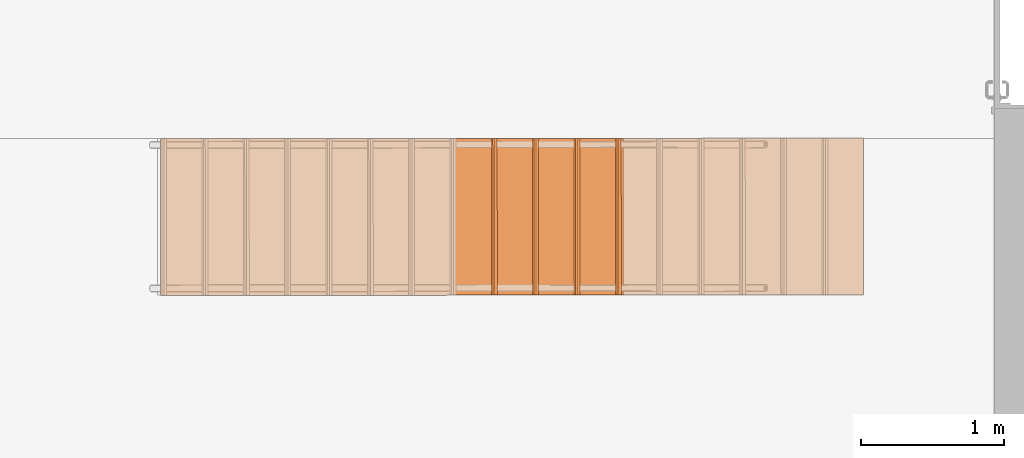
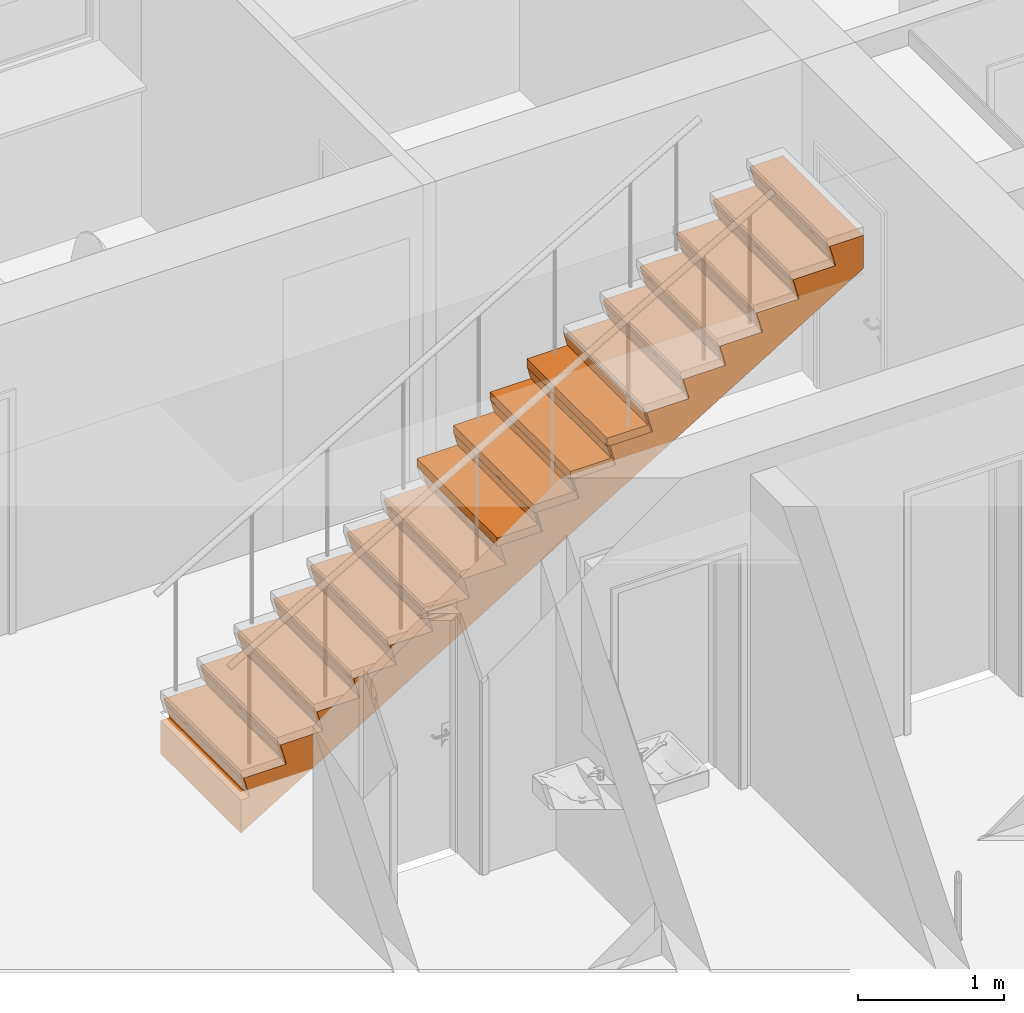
# One storey, part 126 of 127: 9 proxies, 1 element without a shape of its own.
"""IFC2X3 building model written with IfcOpenShell, lengths in millimetres."""

from ifc_helpers import new_model, entity, si_unit, converted_unit, derived_unit, money_unit, direction, frame, origin_with_axes, place, context, subcontext, project, spatial, faceted_brep, material, type_object, element, aggregate, save


model = new_model("IFC2X3")

# Units and contexts
model_context = context("Model", 3, precision=1e-05, world=origin_with_axes(), true_north=direction((0.0, 1.0)))
body_context = subcontext(model_context, "Body", "Model", "MODEL_VIEW")
ifc_project = project(units=[si_unit("LENGTHUNIT", "METRE", prefix="MILLI"), si_unit("AREAUNIT", "SQUARE_METRE"), si_unit("VOLUMEUNIT", "CUBIC_METRE"), converted_unit("PLANEANGLEUNIT", "DEGREE", entity("IfcPlaneAngleMeasure", 0.0174532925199), si_unit("PLANEANGLEUNIT", "RADIAN"), dimensions=[0, 0, 0, 0, 0, 0, 0]), si_unit("SOLIDANGLEUNIT", "STERADIAN"), money_unit("EUR"), converted_unit("TIMEUNIT", "Year", entity("IfcTimeMeasure", 31556926.0), si_unit("TIMEUNIT", "SECOND"), dimensions=[0, 0, 1, 0, 0, 0, 0]), si_unit("MASSUNIT", "GRAM", prefix="KILO"), si_unit("THERMODYNAMICTEMPERATUREUNIT", "DEGREE_CELSIUS"), si_unit("LUMINOUSINTENSITYUNIT", "LUMEN"), si_unit("ENERGYUNIT", "JOULE", prefix="MEGA"), derived_unit("THERMALCONDUCTANCEUNIT", [(si_unit("POWERUNIT", "WATT"), 1), (si_unit("LENGTHUNIT", "METRE"), -1), (si_unit("THERMODYNAMICTEMPERATUREUNIT", "KELVIN"), -1)]), derived_unit("SPECIFICHEATCAPACITYUNIT", [(si_unit("ENERGYUNIT", "JOULE"), 1), (si_unit("MASSUNIT", "GRAM", prefix="KILO"), -1), (si_unit("THERMODYNAMICTEMPERATUREUNIT", "KELVIN"), -1)]), derived_unit("MASSDENSITYUNIT", [(si_unit("MASSUNIT", "GRAM", prefix="KILO"), 1), (si_unit("VOLUMEUNIT", "CUBIC_METRE"), -1)])], contexts=[model_context])

# Site, building, storey
site_placement = place(None, origin_with_axes())
site = spatial("IfcSite", under=ifc_project, at=site_placement, Name="Site", CompositionType="ELEMENT")
building_placement = place(site_placement, origin_with_axes())
building = spatial("IfcBuilding", under=site, at=building_placement, Name="Building", CompositionType="ELEMENT")
storey_placement = place(building_placement, origin_with_axes())
storey = spatial("IfcBuildingStorey", under=building, at=storey_placement, Name="1 KORRUS", CompositionType="ELEMENT", Elevation=0.0)

# Stair, proxies
stair_placement = place(storey_placement, frame((9889.99181075, 65961.1849179, 0.0), z_axis=(0.0, 0.0, 1.0), x_axis=(1.0, 0.0, 0.0)))
stair = element("IfcStair", 1, at=stair_placement, inside=storey, Name="STAIR - 001", ShapeType="NOTDEFINED")
ifc_material = material(Name="Betoon - Ol.Olev konstruktsioon")
building_element_proxy_type_1 = type_object("IfcBuildingElementProxyType", Name="BETOON TREPP", PredefinedType="NOTDEFINED")
proxy_1_placement = place(stair_placement, origin_with_axes())
proxy_1 = element("IfcBuildingElementProxy", 2, at=proxy_1_placement, type_object=building_element_proxy_type_1, material=ifc_material, Name="Betoon - Ol.Olev konstruktsioon;  Objekti nimi:", context=body_context, shape_type="Brep", body=[
    faceted_brep([(4834.20881468, -1096.14609167, 2594.05305173), (4882.54213265, -1096.10755605, 2623.46481644), (4930.87545062, -1096.06902043, 2652.87658115), (4930.87545062, -1096.0690172, 2930.0), (4664.26055089, -1096.28158631, 2930.0), (4711.54568747, -1096.24388639, 2753.52941176), (4374.26064307, -1096.51280024, 2753.52941176), (4421.54577964, -1096.47510076, 2577.05882353), (4084.26073524, -1096.74401396, 2577.05882353), (4131.54587181, -1096.70631448, 2400.58823529), (3794.26082741, -1096.97522767, 2400.58823529), (3841.54596399, -1096.9375282, 2224.11764706), (3504.26091958, -1097.20644139, 2224.11764706), (3551.54605616, -1097.16874191, 2047.64705882), (3214.26101175, -1097.43765511, 2047.64705882), (3261.54614833, -1097.39995563, 1871.17647059), (2924.26110393, -1097.66886882, 1871.17647059), (2971.5462405, -1097.63116935, 1694.70588235), (2634.2611961, -1097.90008254, 1694.70588235), (2681.54633268, -1097.86238306, 1518.23529412), (2344.26128827, -1098.13129626, 1518.23529412), (2391.54642485, -1098.09359678, 1341.76470588), (2054.26138044, -1098.36250997, 1341.76470588), (2101.54651702, -1098.3248105, 1165.29411765), (1764.26147261, -1098.59372369, 1165.29411765), (1811.54660919, -1098.55602421, 988.823529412), (1474.26156479, -1098.82493741, 988.823529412), (1521.54670136, -1098.78723793, 812.352941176), (1184.26165696, -1099.05615112, 812.352941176), (1231.54679354, -1099.01845165, 635.882352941), (894.26174913, -1099.28736484, 635.882352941), (941.546885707, -1099.24966537, 459.411764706), (604.261841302, -1099.51857856, 459.411764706), (651.546977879, -1099.48087908, 282.941176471), (314.261933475, -1099.74979227, 282.941176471), (361.547070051, -1099.7120928, 106.470588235), (24.2620256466, -1099.98100599, 106.470588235), (71.5471622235, -1099.94330652, -70.0), (0.877017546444, -1099.99965038, -70.0), (0.877017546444, -1099.99965038, -347.123418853), (49.2103355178, -1099.96111476, -317.711654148), (97.5436534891, -1099.92257914, -288.299889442), (145.87697146, -1099.88404352, -258.888124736), (194.210289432, -1099.8455079, -229.47636003), (242.543607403, -1099.80697228, -200.064595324), (290.876925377, -1099.7684399, -170.652830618), (339.210243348, -1099.72990428, -141.241065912), (387.54356132, -1099.69136866, -111.829301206), (435.876879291, -1099.65283304, -82.4175365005), (484.210197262, -1099.61429742, -53.0057717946), (532.543515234, -1099.5757618, -23.5940070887), (580.876833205, -1099.53722618, 5.81775761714), (629.210151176, -1099.49869056, 35.229522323), (677.543469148, -1099.46015495, 64.6412870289), (725.876787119, -1099.42161933, 94.0530517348), (774.21010509, -1099.38308371, 123.464816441), (822.543423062, -1099.34454809, 152.876581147), (870.876741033, -1099.30601247, 182.288345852), (919.210059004, -1099.26747685, 211.700110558), (967.543376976, -1099.22894123, 241.111875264), (1015.87669495, -1099.19040561, 270.52363997), (1064.21001292, -1099.15186999, 299.935404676), (1112.54333089, -1099.11333437, 329.347169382), (1160.87664886, -1099.07479875, 358.758934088), (1209.20996683, -1099.03626313, 388.170698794), (1257.5432848, -1098.99772751, 417.582463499), (1305.87660277, -1098.95919189, 446.994228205), (1354.20992075, -1098.92065627, 476.405992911), (1402.54323872, -1098.88212065, 505.817757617), (1450.87655669, -1098.84358503, 535.229522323), (1499.20987466, -1098.80504941, 564.641287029), (1547.54319263, -1098.76651379, 594.053051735), (1595.8765106, -1098.72797818, 623.464816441), (1644.20982857, -1098.68944256, 652.876581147), (1692.54314655, -1098.65090694, 682.288345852), (1740.87646452, -1098.61237132, 711.700110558), (1789.20978249, -1098.5738357, 741.111875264), (1837.54310046, -1098.53530008, 770.52363997), (1885.87641843, -1098.49676446, 799.935404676), (1934.2097364, -1098.45822884, 829.347169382), (1982.54305437, -1098.41969322, 858.758934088), (2030.87637234, -1098.3811576, 888.170698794), (2079.20969032, -1098.34262198, 917.582463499), (2127.54300829, -1098.30408636, 946.994228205), (2175.87632626, -1098.26555074, 976.405992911), (2224.20964423, -1098.22701512, 1005.81775762), (2272.5429622, -1098.1884795, 1035.22952232), (2320.87628017, -1098.14994388, 1064.64128703), (2369.20959814, -1098.11140826, 1094.05305173), (2417.54291612, -1098.07287264, 1123.46481644), (2465.87623409, -1098.03433703, 1152.87658115), (2514.20955206, -1097.99580141, 1182.28834585), (2562.54287003, -1097.95726579, 1211.70011056), (2610.876188, -1097.91873017, 1241.11187526), (2659.20950597, -1097.88019455, 1270.52363997), (2707.54282394, -1097.84165893, 1299.93540468), (2755.87614191, -1097.80312331, 1329.34716938), (2804.20945989, -1097.76458769, 1358.75893409), (2852.54277786, -1097.72605207, 1388.17069879), (2900.87609583, -1097.68751645, 1417.5824635), (2949.2094138, -1097.64898083, 1446.99422821), (2997.54273177, -1097.61044521, 1476.40599291), (3045.87604974, -1097.57190959, 1505.81775762), (3094.20936771, -1097.53337397, 1535.22952232), (3142.54268569, -1097.49483835, 1564.64128703), (3190.87600366, -1097.45630273, 1594.05305173), (3239.20932163, -1097.41776711, 1623.46481644), (3287.5426396, -1097.37923149, 1652.87658115), (3335.87595757, -1097.34069587, 1682.28834585), (3384.20927554, -1097.30216026, 1711.70011056), (3432.54259351, -1097.26362464, 1741.11187526), (3480.87591148, -1097.22508902, 1770.52363997), (3529.20922946, -1097.1865534, 1799.93540468), (3577.54254743, -1097.14801778, 1829.34716938), (3625.8758654, -1097.10948216, 1858.75893409), (3674.20918337, -1097.07094654, 1888.17069879), (3722.54250134, -1097.03241092, 1917.5824635), (3770.87581931, -1096.9938753, 1946.99422821), (3819.20913728, -1096.95533968, 1976.40599291), (3867.54245525, -1096.91680406, 2005.81775762), (3915.87577323, -1096.87826844, 2035.22952232), (3964.2090912, -1096.83973282, 2064.64128703), (4012.54240917, -1096.8011972, 2094.05305173), (4060.87572714, -1096.76266158, 2123.46481644), (4109.20904511, -1096.72412596, 2152.87658115), (4157.54236308, -1096.68559034, 2182.28834585), (4205.87568105, -1096.64705472, 2211.70011056), (4254.20899903, -1096.6085191, 2241.11187526), (4302.542317, -1096.56998349, 2270.52363997), (4350.87563497, -1096.53144787, 2299.93540468), (4399.20895294, -1096.49291225, 2329.34716938), (4447.54227091, -1096.45437663, 2358.75893409), (4495.87558888, -1096.41584101, 2388.17069879), (4544.20890685, -1096.37730539, 2417.5824635), (4592.54222482, -1096.33876977, 2446.99422821), (4640.8755428, -1096.30023415, 2476.40599291), (4689.20886077, -1096.26169853, 2505.81775762), (4737.54217874, -1096.22316291, 2535.22952232), (4785.87549671, -1096.18462729, 2564.64128703), (4833.77030591, -546.146264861, 2594.05305173), (4929.99843308, 3.93063318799, 2652.87658115), (4881.6651151, 3.89209756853, 2623.46481644), (4929.99843308, 3.93063318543, 2930.0), (4663.38353335, 3.71806407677, 2930.0), (4710.66866992, 3.75576399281, 2753.52941176), (4373.38362552, 3.48685036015, 2753.52941176), (4420.6687621, 3.52455027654, 2577.05882353), (4083.38371769, 3.25563678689, 2577.05882353), (4130.66885427, 3.2933369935, 2400.58823529), (3793.38380986, 3.02442321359, 2400.58823529), (3840.66894644, 3.06212371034, 2224.11764706), (3503.38390203, 2.79320964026, 2224.11764706), (3550.66903861, 2.83091042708, 2047.64705882), (3213.38399421, 2.56199518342, 2047.64705882), (3260.66913078, 2.59969447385, 1871.17647059), (2923.38408638, 2.33078161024, 1871.17647059), (2970.66922296, 2.36848119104, 1694.70588235), (2633.38417855, 2.09956803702, 1694.70588235), (2680.66931513, 2.13726790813, 1518.23529412), (2343.38427072, 1.86835446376, 1518.23529412), (2390.6694073, 1.9060546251, 1341.76470588), (2053.3843629, 1.63714089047, 1341.76470588), (2100.66949947, 1.67484134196, 1165.29411765), (1763.38445507, 1.40592731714, 1165.29411765), (1810.66959164, 1.44362805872, 988.823529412), (1473.38454724, 1.17471286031, 988.823529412), (1520.66968382, 1.2124121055, 812.352941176), (1183.38463941, 0.943499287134, 812.352941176), (1230.66977599, 0.981198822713, 635.882352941), (893.384731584, 0.71228571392, 635.882352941), (940.669868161, 0.749985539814, 459.411764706), (603.384823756, 0.48107214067, 459.411764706), (650.669960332, 0.518772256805, 282.941176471), (313.384915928, 0.249858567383, 282.941176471), (360.670052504, 0.287558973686, 106.470588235), (23.3850080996, 0.0186449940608, 106.470588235), (70.6701446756, 0.0563456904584, -70.0), (0.0, 0.0, -70.0), (0.0, 0.0, -347.123418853), (97.1051447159, -549.922753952, -288.299889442), (48.3333179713, 0.038535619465, -317.711654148), (193.771780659, -549.845682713, -229.47636003), (290.438416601, -549.768611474, -170.652830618), (387.105052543, -549.691538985, -111.829301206), (483.771688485, -549.614467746, -53.0057717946), (580.438324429, -549.537397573, 5.81775761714), (677.104960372, -549.460326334, 64.6412870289), (773.771596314, -549.383255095, 123.464816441), (870.438232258, -549.306184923, 182.288345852), (967.1048682, -549.229113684, 241.111875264), (1063.77150414, -549.152042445, 299.935404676), (1160.43814009, -549.074971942, 358.758934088), (1257.10477603, -548.997900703, 417.582463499), (1353.77141197, -548.920829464, 476.405992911), (1450.43804791, -548.843758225, 535.229522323), (1547.10468386, -548.766686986, 594.053051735), (1643.7713198, -548.689615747, 652.876581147), (1740.43795574, -548.612544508, 711.700110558), (1837.10459168, -548.535473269, 770.52363997), (1933.77122763, -548.45840203, 829.347169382), (2030.43786357, -548.381330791, 888.170698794), (2127.10449951, -548.304256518, 946.994228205), (2223.77113545, -548.227185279, 1005.81775762), (2320.4377714, -548.150115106, 1064.64128703), (2417.10440734, -548.073043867, 1123.46481644), (2513.77104328, -547.995972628, 1182.28834585), (2610.43767923, -547.918902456, 1241.11187526), (2707.10431517, -547.841831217, 1299.93540468), (2803.77095111, -547.764759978, 1358.75893409), (2900.43758705, -547.687689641, 1417.5824635), (2997.104223, -547.610618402, 1476.40599291), (3093.77085894, -547.533547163, 1535.22952232), (3190.43749488, -547.456475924, 1594.05305173), (3287.10413082, -547.379404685, 1652.87658115), (3383.77076677, -547.302333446, 1711.70011056), (3480.43740271, -547.225262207, 1770.52363997), (3577.10403865, -547.148190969, 1829.34716938), (3673.7706746, -547.07111973, 1888.17069879), (3770.43731054, -546.994048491, 1946.99422821), (3867.10394648, -546.916974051, 2005.81775762), (3963.77058242, -546.839902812, 2064.64128703), (4060.43721836, -546.762832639, 2123.46481644), (4157.10385431, -546.6857614, 2182.28834585), (4253.77049025, -546.608690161, 2241.11187526), (4350.43712619, -546.531619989, 2299.93540468), (4447.10376214, -546.45454875, 2358.75893409), (4543.77039808, -546.377477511, 2417.5824635), (4640.43703402, -546.300407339, 2476.40599291), (4737.10366996, -546.2233361, 2535.22952232), (4833.33179713, 3.85356194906, 2594.05305173), (96.6666359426, 0.07707123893, -288.299889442), (4784.99847916, 3.8150263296, 2564.64128703), (4736.66516119, 3.77649071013, 2535.22952232), (4688.33184322, 3.73795509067, 2505.81775762), (4639.99852525, 3.6994194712, 2476.40599291), (4591.66520727, 3.66088598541, 2446.99422821), (4543.3318893, 3.62235036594, 2417.5824635), (4494.99857133, 3.58381474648, 2388.17069879), (4446.66525336, 3.54527912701, 2358.75893409), (4398.33193539, 3.50674350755, 2329.34716938), (4349.99861742, 3.46820788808, 2299.93540468), (4301.66529944, 3.42967440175, 2270.52363997), (4253.33198147, 3.39113878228, 2241.11187526), (4204.9986635, 3.35260316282, 2211.70011056), (4156.66534553, 3.31406754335, 2182.28834585), (4108.33202756, 3.27553192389, 2152.87658115), (4059.99870959, 3.23699630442, 2123.46481644), (4011.66539161, 3.19846281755, 2094.05305173), (3963.33207364, 3.15992719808, 2064.64128703), (3914.99875567, 3.12139157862, 2035.22952232), (3866.6654377, 3.08285595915, 2005.81775762), (3818.33211973, 3.04432033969, 1976.40599291), (3769.99880176, 3.00577831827, 1946.99422821), (3721.66548379, 2.9672426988, 1917.5824635), (3673.33216582, 2.92870707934, 1888.17069879), (3624.99884785, 2.89017145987, 1858.75893409), (3576.66552988, 2.85163584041, 1829.34716938), (3528.33221191, 2.81310022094, 1799.93540468), (3479.99889394, 2.77456460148, 1770.52363997), (3431.66557596, 2.73602898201, 1741.11187526), (3383.33225799, 2.69749336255, 1711.70011056), (3334.99894002, 2.65895774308, 1682.28834585), (3286.66562205, 2.62042212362, 1652.87658115), (3238.33230408, 2.58188650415, 1623.46481644), (3189.99898611, 2.54335088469, 1594.05305173), (3141.66566814, 2.50481526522, 1564.64128703), (3093.33235016, 2.46627964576, 1535.22952232), (3044.99903219, 2.42774402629, 1505.81775762), (2996.66571422, 2.38920840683, 1476.40599291), (2948.33239625, 2.35067278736, 1446.99422821), (2899.99907828, 2.3121371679, 1417.5824635), (2851.66576031, 2.27360335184, 1388.17069879), (2803.33244234, 2.23506773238, 1358.75893409), (2754.99912436, 2.19653211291, 1329.34716938), (2706.66580639, 2.15799649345, 1299.93540468), (2658.33248842, 2.11946087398, 1270.52363997), (2609.99917045, 2.08092525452, 1241.11187526), (2561.66585248, 2.04239176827, 1211.70011056), (2513.33253451, 2.0038561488, 1182.28834585), (2464.99921653, 1.96532052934, 1152.87658115), (2416.66589856, 1.92678490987, 1123.46481644), (2368.33258059, 1.88824929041, 1094.05305173), (2319.99926262, 1.84971367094, 1064.64128703), (2271.66594465, 1.81118018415, 1035.22952232), (2223.33262668, 1.77264456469, 1005.81775762), (2174.9993087, 1.73410894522, 976.405992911), (2126.66599073, 1.69557332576, 946.994228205), (2078.33267276, 1.65703770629, 917.582463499), (2029.9993548, 1.61849601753, 888.170698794), (1981.66603682, 1.57996039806, 858.758934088), (1933.33271885, 1.5414247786, 829.347169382), (1884.99940088, 1.50288915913, 799.935404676), (1836.66608291, 1.46435353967, 770.52363997), (1788.33276494, 1.4258179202, 741.111875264), (1739.99944697, 1.38728230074, 711.700110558), (1691.666129, 1.34874668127, 682.288345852), (1643.33281103, 1.31021106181, 652.876581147), (1594.99949305, 1.27167544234, 623.464816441), (1546.66617508, 1.23313982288, 594.053051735), (1498.33285711, 1.19460420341, 564.641287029), (1449.99953914, 1.15606858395, 535.229522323), (1401.66622117, 1.11753296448, 505.817757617), (1353.3329032, 1.07899734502, 476.405992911), (1304.99958523, 1.04046172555, 446.994228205), (1256.66626725, 1.00192610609, 417.582463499), (1208.33294928, 0.963390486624, 388.170698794), (1159.99963131, 0.924854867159, 358.758934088), (1111.66631334, 0.886320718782, 329.347169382), (1063.33299537, 0.847785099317, 299.935404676), (1014.9996774, 0.809249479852, 270.52363997), (966.666359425, 0.770713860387, 241.111875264), (918.333041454, 0.732178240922, 211.700110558), (869.999723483, 0.693642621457, 182.288345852), (821.66640551, 0.655109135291, 152.876581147), (773.333087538, 0.616573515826, 123.464816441), (724.999769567, 0.578037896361, 94.0530517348), (676.666451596, 0.539502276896, 64.6412870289), (628.333133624, 0.500966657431, 35.229522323), (579.999815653, 0.462431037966, 5.81775761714), (531.66649768, 0.423897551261, -23.5940070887), (483.333179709, 0.385361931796, -53.0057717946), (434.999861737, 0.346826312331, -82.4175365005), (386.666543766, 0.308290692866, -111.829301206), (338.333225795, 0.269755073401, -141.241065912), (289.999907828, 0.23121371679, -170.652830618), (241.666589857, 0.192678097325, -200.064595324), (193.333271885, 0.15414247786, -229.47636003), (144.999953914, 0.115606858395, -258.888124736)], [[[0, 1, 2, 3, 4, 5, 6, 7, 8, 9, 10, 11, 12, 13, 14, 15, 16, 17, 18, 19, 20, 21, 22, 23, 24, 25, 26, 27, 28, 29, 30, 31, 32, 33, 34, 35, 36, 37, 38, 39, 40, 41, 42, 43, 44, 45, 46, 47, 48, 49, 50, 51, 52, 53, 54, 55, 56, 57, 58, 59, 60, 61, 62, 63, 64, 65, 66, 67, 68, 69, 70, 71, 72, 73, 74, 75, 76, 77, 78, 79, 80, 81, 82, 83, 84, 85, 86, 87, 88, 89, 90, 91, 92, 93, 94, 95, 96, 97, 98, 99, 100, 101, 102, 103, 104, 105, 106, 107, 108, 109, 110, 111, 112, 113, 114, 115, 116, 117, 118, 119, 120, 121, 122, 123, 124, 125, 126, 127, 128, 129, 130, 131, 132, 133, 134, 135, 136, 137, 138]], [[139, 1, 0]], [[140, 2, 1, 139, 141]], [[3, 2, 140, 142]], [[3, 142, 143, 4]], [[143, 144, 5, 4]], [[145, 6, 5, 144]], [[145, 146, 7, 6]], [[147, 8, 7, 146]], [[147, 148, 9, 8]], [[149, 10, 9, 148]], [[149, 150, 11, 10]], [[151, 12, 11, 150]], [[151, 152, 13, 12]], [[153, 14, 13, 152]], [[153, 154, 15, 14]], [[155, 16, 15, 154]], [[155, 156, 17, 16]], [[157, 18, 17, 156]], [[157, 158, 19, 18]], [[159, 20, 19, 158]], [[159, 160, 21, 20]], [[161, 22, 21, 160]], [[161, 162, 23, 22]], [[163, 24, 23, 162]], [[163, 164, 25, 24]], [[165, 26, 25, 164]], [[165, 166, 27, 26]], [[167, 28, 27, 166]], [[167, 168, 29, 28]], [[169, 30, 29, 168]], [[169, 170, 31, 30]], [[171, 32, 31, 170]], [[171, 172, 33, 32]], [[173, 34, 33, 172]], [[173, 174, 35, 34]], [[175, 36, 35, 174]], [[175, 176, 37, 36]], [[176, 177, 38, 37]], [[177, 178, 39, 38]], [[179, 40, 39, 178, 180]], [[179, 41, 40]], [[179, 42, 41]], [[181, 43, 42]], [[181, 44, 43]], [[182, 45, 44]], [[182, 46, 45]], [[183, 47, 46]], [[183, 48, 47]], [[184, 49, 48]], [[184, 50, 49]], [[185, 51, 50]], [[185, 52, 51]], [[186, 53, 52]], [[186, 54, 53]], [[187, 55, 54]], [[187, 56, 55]], [[188, 57, 56]], [[188, 58, 57]], [[189, 59, 58]], [[189, 60, 59]], [[190, 61, 60]], [[190, 62, 61]], [[191, 63, 62]], [[191, 64, 63]], [[192, 65, 64]], [[192, 66, 65]], [[193, 67, 66]], [[193, 68, 67]], [[194, 69, 68]], [[194, 70, 69]], [[195, 71, 70]], [[195, 72, 71]], [[196, 73, 72]], [[196, 74, 73]], [[197, 75, 74]], [[197, 76, 75]], [[198, 77, 76]], [[198, 78, 77]], [[199, 79, 78]], [[199, 80, 79]], [[200, 81, 80]], [[200, 82, 81]], [[201, 83, 82]], [[201, 84, 83]], [[202, 85, 84]], [[202, 86, 85]], [[203, 87, 86]], [[203, 88, 87]], [[204, 89, 88]], [[204, 90, 89]], [[205, 91, 90]], [[205, 92, 91]], [[206, 93, 92]], [[206, 94, 93]], [[207, 95, 94]], [[207, 96, 95]], [[208, 97, 96]], [[208, 98, 97]], [[209, 99, 98]], [[209, 100, 99]], [[210, 101, 100]], [[210, 102, 101]], [[211, 103, 102]], [[211, 104, 103]], [[212, 105, 104]], [[212, 106, 105]], [[213, 107, 106]], [[213, 108, 107]], [[214, 109, 108]], [[214, 110, 109]], [[215, 111, 110]], [[215, 112, 111]], [[216, 113, 112]], [[216, 114, 113]], [[217, 115, 114]], [[217, 116, 115]], [[218, 117, 116]], [[218, 118, 117]], [[219, 119, 118]], [[219, 120, 119]], [[220, 121, 120]], [[220, 122, 121]], [[221, 123, 122]], [[221, 124, 123]], [[222, 125, 124]], [[222, 126, 125]], [[223, 127, 126]], [[223, 128, 127]], [[224, 129, 128]], [[224, 130, 129]], [[225, 131, 130]], [[225, 132, 131]], [[226, 133, 132]], [[226, 134, 133]], [[227, 135, 134]], [[227, 136, 135]], [[228, 137, 136]], [[228, 138, 137]], [[139, 0, 138]], [[139, 229, 141]], [[230, 180, 178, 177, 176, 175, 174, 173, 172, 171, 170, 169, 168, 167, 166, 165, 164, 163, 162, 161, 160, 159, 158, 157, 156, 155, 154, 153, 152, 151, 150, 149, 148, 147, 146, 145, 144, 143, 142, 140, 141, 229, 231, 232, 233, 234, 235, 236, 237, 238, 239, 240, 241, 242, 243, 244, 245, 246, 247, 248, 249, 250, 251, 252, 253, 254, 255, 256, 257, 258, 259, 260, 261, 262, 263, 264, 265, 266, 267, 268, 269, 270, 271, 272, 273, 274, 275, 276, 277, 278, 279, 280, 281, 282, 283, 284, 285, 286, 287, 288, 289, 290, 291, 292, 293, 294, 295, 296, 297, 298, 299, 300, 301, 302, 303, 304, 305, 306, 307, 308, 309, 310, 311, 312, 313, 314, 315, 316, 317, 318, 319, 320, 321, 322, 323, 324, 325, 326, 327]], [[179, 180, 230]], [[327, 181, 42, 179]], [[325, 182, 44, 181]], [[323, 183, 46, 182]], [[183, 321, 184, 48]], [[319, 185, 50, 184]], [[185, 317, 186, 52]], [[315, 187, 54, 186]], [[187, 313, 188, 56]], [[188, 311, 189, 58]], [[189, 309, 190, 60]], [[307, 191, 62, 190]], [[191, 305, 192, 64]], [[192, 303, 193, 66]], [[193, 301, 194, 68]], [[194, 299, 195, 70]], [[195, 297, 196, 72]], [[295, 197, 74, 196]], [[197, 293, 198, 76]], [[198, 291, 199, 78]], [[289, 200, 80, 199]], [[287, 201, 82, 200]], [[285, 202, 84, 201]], [[283, 203, 86, 202]], [[281, 204, 88, 203]], [[204, 279, 205, 90]], [[277, 206, 92, 205]], [[206, 275, 207, 94]], [[273, 208, 96, 207]], [[208, 271, 209, 98]], [[209, 269, 210, 100]], [[210, 267, 211, 102]], [[211, 265, 212, 104]], [[212, 263, 213, 106]], [[261, 214, 108, 213]], [[214, 259, 215, 110]], [[215, 257, 216, 112]], [[255, 217, 114, 216]], [[253, 218, 116, 217]], [[251, 219, 118, 218]], [[219, 249, 220, 120]], [[247, 221, 122, 220]], [[221, 245, 222, 124]], [[222, 243, 223, 126]], [[223, 241, 224, 128]], [[224, 239, 225, 130]], [[237, 226, 132, 225]], [[226, 235, 227, 134]], [[233, 228, 136, 227]], [[228, 231, 139, 138]], [[139, 231, 229]], [[228, 232, 231]], [[228, 233, 232]], [[227, 234, 233]], [[227, 235, 234]], [[226, 236, 235]], [[226, 237, 236]], [[225, 238, 237]], [[225, 239, 238]], [[224, 240, 239]], [[224, 241, 240]], [[223, 242, 241]], [[223, 243, 242]], [[222, 244, 243]], [[222, 245, 244]], [[221, 246, 245]], [[221, 247, 246]], [[220, 248, 247]], [[220, 249, 248]], [[219, 250, 249]], [[219, 251, 250]], [[218, 252, 251]], [[218, 253, 252]], [[217, 254, 253]], [[217, 255, 254]], [[216, 256, 255]], [[216, 257, 256]], [[215, 258, 257]], [[215, 259, 258]], [[214, 260, 259]], [[214, 261, 260]], [[213, 262, 261]], [[213, 263, 262]], [[212, 264, 263]], [[212, 265, 264]], [[211, 266, 265]], [[211, 267, 266]], [[210, 268, 267]], [[210, 269, 268]], [[209, 270, 269]], [[209, 271, 270]], [[208, 272, 271]], [[208, 273, 272]], [[207, 274, 273]], [[207, 275, 274]], [[206, 276, 275]], [[206, 277, 276]], [[205, 278, 277]], [[205, 279, 278]], [[204, 280, 279]], [[204, 281, 280]], [[203, 282, 281]], [[203, 283, 282]], [[202, 284, 283]], [[202, 285, 284]], [[201, 286, 285]], [[201, 287, 286]], [[200, 288, 287]], [[200, 289, 288]], [[199, 290, 289]], [[199, 291, 290]], [[198, 292, 291]], [[198, 293, 292]], [[197, 294, 293]], [[197, 295, 294]], [[196, 296, 295]], [[196, 297, 296]], [[195, 298, 297]], [[195, 299, 298]], [[194, 300, 299]], [[194, 301, 300]], [[193, 302, 301]], [[193, 303, 302]], [[192, 304, 303]], [[192, 305, 304]], [[191, 306, 305]], [[191, 307, 306]], [[190, 308, 307]], [[190, 309, 308]], [[189, 310, 309]], [[189, 311, 310]], [[188, 312, 311]], [[188, 313, 312]], [[187, 314, 313]], [[187, 315, 314]], [[186, 316, 315]], [[186, 317, 316]], [[185, 318, 317]], [[185, 319, 318]], [[184, 320, 319]], [[184, 321, 320]], [[183, 322, 321]], [[183, 323, 322]], [[182, 324, 323]], [[182, 325, 324]], [[181, 326, 325]], [[181, 327, 326]], [[179, 230, 327]]]),
])
building_element_proxy_type_2 = type_object("IfcBuildingElementProxyType", Name="SF RISER - 020", PredefinedType="NOTDEFINED")
proxy_2_placement = place(stair_placement, frame((2320.4377714, -548.150115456, 1528.23529412), z_axis=(0.0, 0.0, 1.0), x_axis=(0.000797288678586, -0.999999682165, 0.0)))
proxy_2 = element("IfcBuildingElementProxy", 3, at=proxy_2_placement, type_object=building_element_proxy_type_2, material=ifc_material, Name=";  Objekti nimi: Riser 22", context=body_context, shape_type="Brep", body=[
    faceted_brep([(550.0, 0.0, 0.0), (550.0, 10.3527618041, 0.0), (-550.0, 10.3527618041, 0.0), (-550.0, 0.0, 0.0), (550.0, 31.2082000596, -116.470588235), (550.0, 41.5609618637, -116.470588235), (-550.0, 41.5609618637, -116.470588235), (-550.0, 31.2082000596, -116.470588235)], [[[0, 1, 2, 3]], [[0, 4, 5, 1]], [[1, 5, 6, 2]], [[3, 2, 6, 7]], [[4, 0, 3, 7]], [[5, 4, 7, 6]]]),
])
proxy_3_placement = place(stair_placement, frame((2610.43767922, -547.91890174, 1704.70588235), z_axis=(0.0, 0.0, 1.0), x_axis=(0.000797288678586, -0.999999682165, 0.0)))
proxy_3 = element("IfcBuildingElementProxy", 4, at=proxy_3_placement, type_object=building_element_proxy_type_2, material=ifc_material, Name=";  Objekti nimi: Riser 22", context=body_context, shape_type="Brep", body=[
    faceted_brep([(550.0, 0.0, 0.0), (550.0, 10.3527618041, 0.0), (-550.0, 10.3527618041, 0.0), (-550.0, 0.0, 0.0), (550.0, 31.2082000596, -116.470588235), (550.0, 41.5609618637, -116.470588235), (-550.0, 41.5609618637, -116.470588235), (-550.0, 31.2082000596, -116.470588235)], [[[0, 1, 2, 3]], [[0, 4, 5, 1]], [[1, 5, 6, 2]], [[3, 2, 6, 7]], [[4, 0, 3, 7]], [[5, 4, 7, 6]]]),
])
proxy_4_placement = place(stair_placement, frame((2900.43758705, -547.687688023, 1881.17647059), z_axis=(0.0, 0.0, 1.0), x_axis=(0.000797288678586, -0.999999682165, 0.0)))
proxy_4 = element("IfcBuildingElementProxy", 5, at=proxy_4_placement, type_object=building_element_proxy_type_2, material=ifc_material, Name=";  Objekti nimi: Riser 22", context=body_context, shape_type="Brep", body=[
    faceted_brep([(550.0, 0.0, 0.0), (550.0, 10.3527618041, 0.0), (-550.0, 10.3527618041, 0.0), (-550.0, 0.0, 0.0), (550.0, 31.2082000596, -116.470588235), (550.0, 41.5609618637, -116.470588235), (-550.0, 41.5609618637, -116.470588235), (-550.0, 31.2082000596, -116.470588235)], [[[0, 1, 2, 3]], [[0, 4, 5, 1]], [[1, 5, 6, 2]], [[3, 2, 6, 7]], [[4, 0, 3, 7]], [[5, 4, 7, 6]]]),
])
proxy_5_placement = place(stair_placement, frame((3190.43749488, -547.456474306, 2057.64705882), z_axis=(0.0, 0.0, 1.0), x_axis=(0.000797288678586, -0.999999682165, 0.0)))
proxy_5 = element("IfcBuildingElementProxy", 6, at=proxy_5_placement, type_object=building_element_proxy_type_2, material=ifc_material, Name=";  Objekti nimi: Riser 22", context=body_context, shape_type="Brep", body=[
    faceted_brep([(550.0, 0.0, 0.0), (550.0, 10.3527618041, 0.0), (-550.0, 10.3527618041, 0.0), (-550.0, 0.0, 0.0), (550.0, 31.2082000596, -116.470588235), (550.0, 41.5609618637, -116.470588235), (-550.0, 41.5609618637, -116.470588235), (-550.0, 31.2082000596, -116.470588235)], [[[0, 1, 2, 3]], [[0, 4, 5, 1]], [[1, 5, 6, 2]], [[3, 2, 6, 7]], [[4, 0, 3, 7]], [[5, 4, 7, 6]]]),
])
building_element_proxy_type_3 = type_object("IfcBuildingElementProxyType", Name="SF TREAD - 020", PredefinedType="NOTDEFINED")
proxy_6_placement = place(stair_placement, frame((2030.43786357, -548.381329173, 1411.76470588), z_axis=(0.0, 0.0, 1.0), x_axis=(0.000797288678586, -0.999999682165, 0.0)))
proxy_6 = element("IfcBuildingElementProxy", 7, at=proxy_6_placement, type_object=building_element_proxy_type_3, material=ifc_material, Name=";  Objekti nimi: Tread 22", context=body_context, shape_type="Brep", body=[
    faceted_brep([(-550.0, 347.637911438, -70.0), (550.0, 347.637917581, -70.0), (550.0, 0.0, -70.0), (-550.0, 0.0, -70.0), (510.0, 40.0, -70.0), (510.0, 307.637917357, -70.0), (-510.0, 307.637911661, -70.0), (-510.0, 40.0, -70.0), (-550.00000018, 347.637911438, -60.0), (550.0, 347.637911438, -60.0), (550.0, 331.560959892, 0.0), (550.0, 0.0, 0.0), (-550.0, 0.0, 0.0), (-550.0, 331.560959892, 0.0), (510.0, 40.0, -60.0), (510.0, 307.637917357, -60.0), (-510.0, 307.637911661, -60.0), (-510.0, 40.0, -60.0)], [[[0, 1, 2, 3], [4, 5, 6, 7]], [[0, 8, 9, 1]], [[10, 11, 2, 1, 9]], [[11, 12, 3, 2]], [[12, 13, 8, 0, 3]], [[5, 4, 14, 15]], [[6, 5, 15, 16]], [[7, 6, 16, 17]], [[4, 7, 17, 14]], [[13, 10, 9, 8]], [[10, 13, 12, 11]], [[17, 16, 15, 14]]]),
])
proxy_7_placement = place(stair_placement, frame((2320.4377714, -548.150115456, 1588.23529412), z_axis=(0.0, 0.0, 1.0), x_axis=(0.000797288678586, -0.999999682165, 0.0)))
proxy_7 = element("IfcBuildingElementProxy", 8, at=proxy_7_placement, type_object=building_element_proxy_type_3, material=ifc_material, Name=";  Objekti nimi: Tread 22", context=body_context, shape_type="Brep", body=[
    faceted_brep([(-550.0, 347.637910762, -70.0), (550.0, 347.637916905, -70.0), (550.0, 0.0, -70.0), (-550.0, 0.0, -70.0), (510.0, 40.0, -70.0), (510.0, 307.637916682, -70.0), (-510.0, 307.637910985, -70.0), (-510.0, 40.0, -70.0), (-550.00000018, 347.637910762, -60.0), (550.0, 347.637910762, -60.0), (550.0, 331.560959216, 0.0), (550.0, 0.0, 0.0), (-550.0, 0.0, 0.0), (-550.0, 331.560959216, 0.0), (510.0, 40.0, -60.0), (510.0, 307.637916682, -60.0), (-510.0, 307.637910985, -60.0), (-510.0, 40.0, -60.0)], [[[0, 1, 2, 3], [4, 5, 6, 7]], [[0, 8, 9, 1]], [[10, 11, 2, 1, 9]], [[11, 12, 3, 2]], [[12, 13, 8, 0, 3]], [[5, 4, 14, 15]], [[6, 5, 15, 16]], [[7, 6, 16, 17]], [[4, 7, 17, 14]], [[13, 10, 9, 8]], [[10, 13, 12, 11]], [[17, 16, 15, 14]]]),
])
proxy_8_placement = place(stair_placement, frame((2610.43767922, -547.91890174, 1764.70588235), z_axis=(0.0, 0.0, 1.0), x_axis=(0.000797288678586, -0.999999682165, 0.0)))
proxy_8 = element("IfcBuildingElementProxy", 9, at=proxy_8_placement, type_object=building_element_proxy_type_3, material=ifc_material, Name=";  Objekti nimi: Tread 22", context=body_context, shape_type="Brep", body=[
    faceted_brep([(-550.0, 347.637910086, -70.0), (550.0, 347.637916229, -70.0), (550.0, 0.0, -70.0), (-550.0, 0.0, -70.0), (510.0, 40.0, -70.0), (510.0, 307.637916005, -70.0), (-510.0, 307.637910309, -70.0), (-510.0, 40.0, -70.0), (-550.00000018, 347.637910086, -60.0), (550.0, 347.637910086, -60.0), (550.0, 331.56095854, 0.0), (550.0, 0.0, 0.0), (-550.0, 0.0, 0.0), (-550.0, 331.56095854, 0.0), (510.0, 40.0, -60.0), (510.0, 307.637916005, -60.0), (-510.0, 307.637910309, -60.0), (-510.0, 40.0, -60.0)], [[[0, 1, 2, 3], [4, 5, 6, 7]], [[0, 8, 9, 1]], [[10, 11, 2, 1, 9]], [[11, 12, 3, 2]], [[12, 13, 8, 0, 3]], [[5, 4, 14, 15]], [[6, 5, 15, 16]], [[7, 6, 16, 17]], [[4, 7, 17, 14]], [[13, 10, 9, 8]], [[10, 13, 12, 11]], [[17, 16, 15, 14]]]),
])
proxy_9_placement = place(stair_placement, frame((2900.43758705, -547.687688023, 1941.17647059), z_axis=(0.0, 0.0, 1.0), x_axis=(0.000797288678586, -0.999999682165, 0.0)))
proxy_9 = element("IfcBuildingElementProxy", 10, at=proxy_9_placement, type_object=building_element_proxy_type_3, material=ifc_material, Name=";  Objekti nimi: Tread 22", context=body_context, shape_type="Brep", body=[
    faceted_brep([(-550.0, 347.637909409, -70.0), (550.0, 347.637915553, -70.0), (550.0, 0.0, -70.0), (-550.0, 0.0, -70.0), (510.0, 40.0, -70.0), (510.0, 307.637915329, -70.0), (-510.0, 307.637909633, -70.0), (-510.0, 40.0, -70.0), (-550.00000018, 347.637909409, -60.0), (550.0, 347.637909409, -60.0), (550.0, 331.560957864, 0.0), (550.0, 0.0, 0.0), (-550.0, 0.0, 0.0), (-550.0, 331.560957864, 0.0), (510.0, 40.0, -60.0), (510.0, 307.637915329, -60.0), (-510.0, 307.637909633, -60.0), (-510.0, 40.0, -60.0)], [[[0, 1, 2, 3], [4, 5, 6, 7]], [[0, 8, 9, 1]], [[10, 11, 2, 1, 9]], [[11, 12, 3, 2]], [[12, 13, 8, 0, 3]], [[5, 4, 14, 15]], [[6, 5, 15, 16]], [[7, 6, 16, 17]], [[4, 7, 17, 14]], [[13, 10, 9, 8]], [[10, 13, 12, 11]], [[17, 16, 15, 14]]]),
])
aggregate(stair, [proxy_1, proxy_2, proxy_3, proxy_4, proxy_5, proxy_6, proxy_7, proxy_8, proxy_9])

save(model, "model.ifc")
